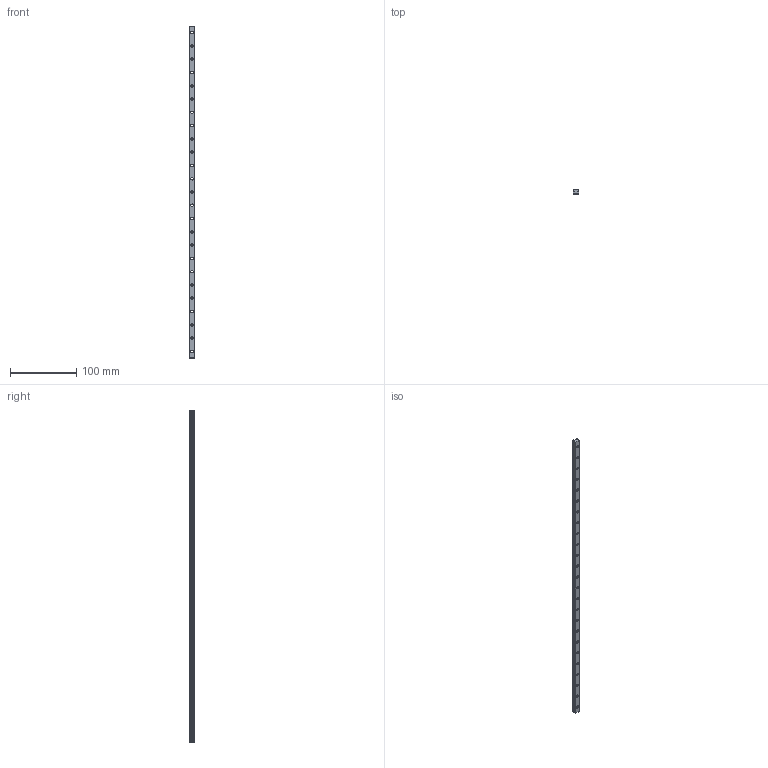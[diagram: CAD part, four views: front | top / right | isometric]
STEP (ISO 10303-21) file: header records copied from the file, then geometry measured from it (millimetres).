
FILE_DESCRIPTION(/* description */ (''),/* implementation_level */ '2;1');
FILE_NAME(/* name */ 'C:\Users\daviddillkoetter\ownCloud\Kamp und Kötter\Artikel\Miniaturfuehrungen_KPM\Step\KPMR-09C-500.stp',/* time_stamp */ '2020-12-07T12:27:11+01:00',/* author */ ('daviddillkoetter'),/* organization */ (''),/* preprocessor_version */ 'ST-DEVELOPER v18.1',/* originating_system */ 'Autodesk Inventor 2021',/* authorisation */ '');
FILE_SCHEMA (('AUTOMOTIVE_DESIGN { 1 0 10303 214 3 1 1 }'));
Length unit declared in the file: millimetre
Products named in the file (1): KPMR
Bounding box: 9 x 6.5 x 500 mm (x, y, z)
Volume: 24270.3 mm3; surface area: 19065.4 mm2
Topology: 1 solids, 1 shells, 199 faces, 443 edges, 271 vertices
Faces by surface type: plane 75, cone 66, cylinder 58
Full cylindrical faces by diameter (mm): 3.5 x25, 6 x25
Entity records: 5657 total; most frequent: DIRECTION 1034, CARTESIAN_POINT 962, ORIENTED_EDGE 886, EDGE_CURVE 443, AXIS2_PLACEMENT_3D 407, EDGE_LOOP 274, VERTEX_POINT 271, LINE 220
